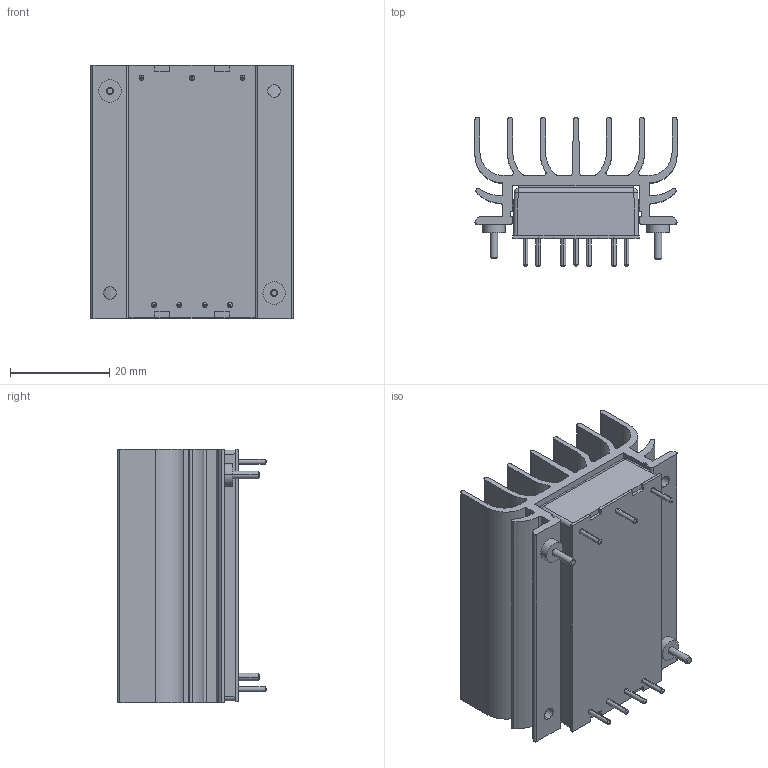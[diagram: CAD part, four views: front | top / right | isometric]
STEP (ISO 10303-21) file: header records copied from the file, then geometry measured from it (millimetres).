
FILE_DESCRIPTION (( 'STEP AP214' ), '1' );
FILE_NAME ('TEN 30UIR_TEN 40UIR.STEP', '2023-09-08T07:18:00', ( '' ), ( '' ), 'SwSTEP 2.0', 'SolidWorks 2016', '' );
FILE_SCHEMA (( 'AUTOMOTIVE_DESIGN' ));
Length unit declared in the file: millimetre
Products named in the file (1): TEN 30UIR_TEN 40UIR
Bounding box: 40.64 x 30 x 51 mm (x, y, z)
Volume: 24568.9 mm3; surface area: 21651.5 mm2
Topology: 5 solids, 5 shells, 220 faces, 559 edges, 356 vertices
Faces by surface type: plane 99, cylinder 95, cone 18, bspline 4, torus 4
Entity records: 7226 total; most frequent: CARTESIAN_POINT 1332, DIRECTION 1181, ORIENTED_EDGE 1110, EDGE_CURVE 555, AXIS2_PLACEMENT_3D 421, VERTEX_POINT 356, VECTOR 339, LINE 339
